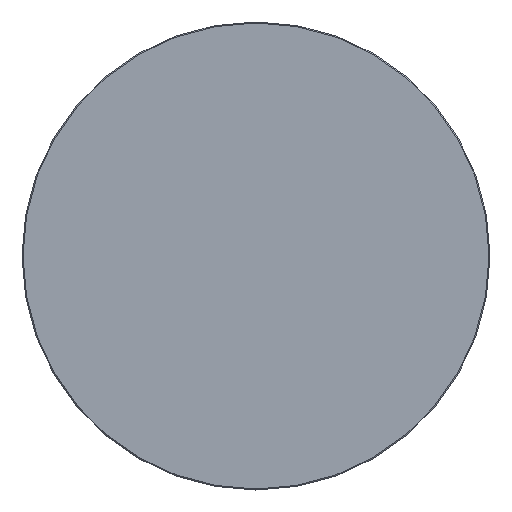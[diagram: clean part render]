
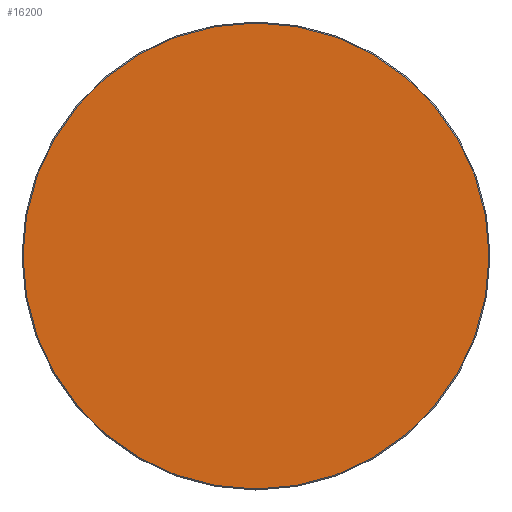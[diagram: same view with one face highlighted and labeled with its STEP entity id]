
A CAD part, top view. The second image highlights one B-rep face of the part: STEP entity #16200.
In plain terms, the highlighted planar face has unit normal (0, 0, 1).
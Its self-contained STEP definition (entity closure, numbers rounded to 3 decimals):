
#16125=CARTESIAN_POINT('',(0.,0.,20.));
#16126=DIRECTION('',(1.,0.,0.));
#16127=DIRECTION('',(0.,0.,1.));
#16128=AXIS2_PLACEMENT_3D('',#16125,#16127,#16126);
#16129=PLANE('',#16128);
#16130=CARTESIAN_POINT('',(-0.5,-348.5,20.));
#16131=VERTEX_POINT('',#16130);
#16132=CARTESIAN_POINT('',(0.5,-348.5,20.));
#16133=VERTEX_POINT('',#16132);
#16134=CARTESIAN_POINT('',(-0.5,-348.5,20.));
#16135=DIRECTION('',(1.,0.,0.));
#16136=VECTOR('',#16135,1.);
#16137=LINE('',#16134,#16136);
#16138=EDGE_CURVE('',#16131,#16133,#16137,.T.);
#16139=ORIENTED_EDGE('E105',*,*,#16138,.T.);
#16140=CARTESIAN_POINT('',(348.5,-0.5,20.));
#16141=VERTEX_POINT('',#16140);
#16142=CARTESIAN_POINT('',(0.5,-0.5,20.));
#16143=DIRECTION('',(0.,-1.,0.));
#16144=DIRECTION('',(0.,-0.,1.));
#16145=AXIS2_PLACEMENT_3D('',#16142,#16144,#16143);
#16146=CIRCLE('',#16145,348.);
#16147=EDGE_CURVE('',#16133,#16141,#16146,.T.);
#16148=ORIENTED_EDGE('E107',*,*,#16147,.T.);
#16149=CARTESIAN_POINT('',(348.5,0.5,20.));
#16150=VERTEX_POINT('',#16149);
#16151=CARTESIAN_POINT('',(348.5,-0.5,20.));
#16152=DIRECTION('',(0.,1.,0.));
#16153=VECTOR('',#16152,1.);
#16154=LINE('',#16151,#16153);
#16155=EDGE_CURVE('',#16141,#16150,#16154,.T.);
#16156=ORIENTED_EDGE('E109',*,*,#16155,.T.);
#16157=CARTESIAN_POINT('',(0.5,348.5,20.));
#16158=VERTEX_POINT('',#16157);
#16159=CARTESIAN_POINT('',(0.5,0.5,20.));
#16160=DIRECTION('',(1.,0.,0.));
#16161=DIRECTION('',(0.,0.,1.));
#16162=AXIS2_PLACEMENT_3D('',#16159,#16161,#16160);
#16163=CIRCLE('',#16162,348.);
#16164=EDGE_CURVE('',#16150,#16158,#16163,.T.);
#16165=ORIENTED_EDGE('E111',*,*,#16164,.T.);
#16166=CARTESIAN_POINT('',(-0.5,348.5,20.));
#16167=VERTEX_POINT('',#16166);
#16168=CARTESIAN_POINT('',(0.5,348.5,20.));
#16169=DIRECTION('',(-1.,0.,0.));
#16170=VECTOR('',#16169,1.);
#16171=LINE('',#16168,#16170);
#16172=EDGE_CURVE('',#16158,#16167,#16171,.T.);
#16173=ORIENTED_EDGE('E113',*,*,#16172,.T.);
#16174=CARTESIAN_POINT('',(-348.5,0.5,20.));
#16175=VERTEX_POINT('',#16174);
#16176=CARTESIAN_POINT('',(-0.5,0.5,20.));
#16177=DIRECTION('',(0.,1.,0.));
#16178=DIRECTION('',(0.,0.,1.));
#16179=AXIS2_PLACEMENT_3D('',#16176,#16178,#16177);
#16180=CIRCLE('',#16179,348.);
#16181=EDGE_CURVE('',#16167,#16175,#16180,.T.);
#16182=ORIENTED_EDGE('E115',*,*,#16181,.T.);
#16183=CARTESIAN_POINT('',(-348.5,-0.5,20.));
#16184=VERTEX_POINT('',#16183);
#16185=CARTESIAN_POINT('',(-348.5,0.5,20.));
#16186=DIRECTION('',(0.,-1.,0.));
#16187=VECTOR('',#16186,1.);
#16188=LINE('',#16185,#16187);
#16189=EDGE_CURVE('',#16175,#16184,#16188,.T.);
#16190=ORIENTED_EDGE('E117',*,*,#16189,.T.);
#16191=CARTESIAN_POINT('',(-0.5,-0.5,20.));
#16192=DIRECTION('',(-1.,0.,0.));
#16193=DIRECTION('',(0.,0.,1.));
#16194=AXIS2_PLACEMENT_3D('',#16191,#16193,#16192);
#16195=CIRCLE('',#16194,348.);
#16196=EDGE_CURVE('',#16184,#16131,#16195,.T.);
#16197=ORIENTED_EDGE('E119',*,*,#16196,.T.);
#16198=EDGE_LOOP('',(#16139,#16148,#16156,#16165,#16173,#16182,#16190,#16197));
#16199=FACE_OUTER_BOUND('',#16198,.T.);
#16200=ADVANCED_FACE('F2',(#16199),#16129,.T.);
